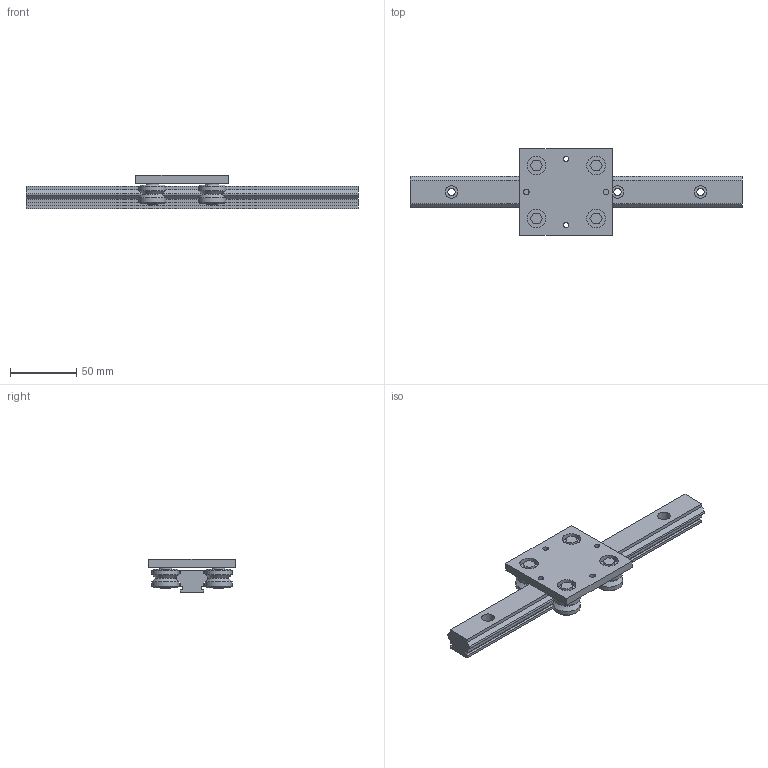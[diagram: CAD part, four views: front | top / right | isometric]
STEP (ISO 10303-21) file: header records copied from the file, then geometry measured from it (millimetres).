
FILE_DESCRIPTION((''),'2;1');
FILE_NAME('D:\製品 (図面)\カタログ用3D\リニアガイド関連\STEP形式\SPDR\SPDR25.stp','2010-06-02T17:09:11',('Tsuchiya'),(''),'Autodesk Inventor 10','Autodesk Inventor 10','');
FILE_SCHEMA(('AUTOMOTIVE_DESIGN { 1 0 10303 214 1 1 1 1 }'));
Length unit declared in the file: millimetre
Products named in the file (3): SPDR25; SPDR251; SPDR252
Assembly tree (2 placements, depth 2):
  SPDR25
    SPDR251
    SPDR252
Bounding box: 250 x 65 x 25 mm (x, y, z)
Volume: 118863.5 mm3; surface area: 40436.8 mm2
Topology: 2 solids, 2 shells, 124 faces, 272 edges, 176 vertices
Faces by surface type: plane 66, bspline 24, cylinder 18, cone 16
Full cylindrical faces by diameter (mm): 8 x4, 10 x4, 20.5 x8
Entity records: 3428 total; most frequent: CARTESIAN_POINT 817, DIRECTION 510, ORIENTED_EDGE 440, EDGE_CURVE 220, EDGE_LOOP 212, AXIS2_PLACEMENT_3D 185, VERTEX_POINT 172, VECTOR 140
